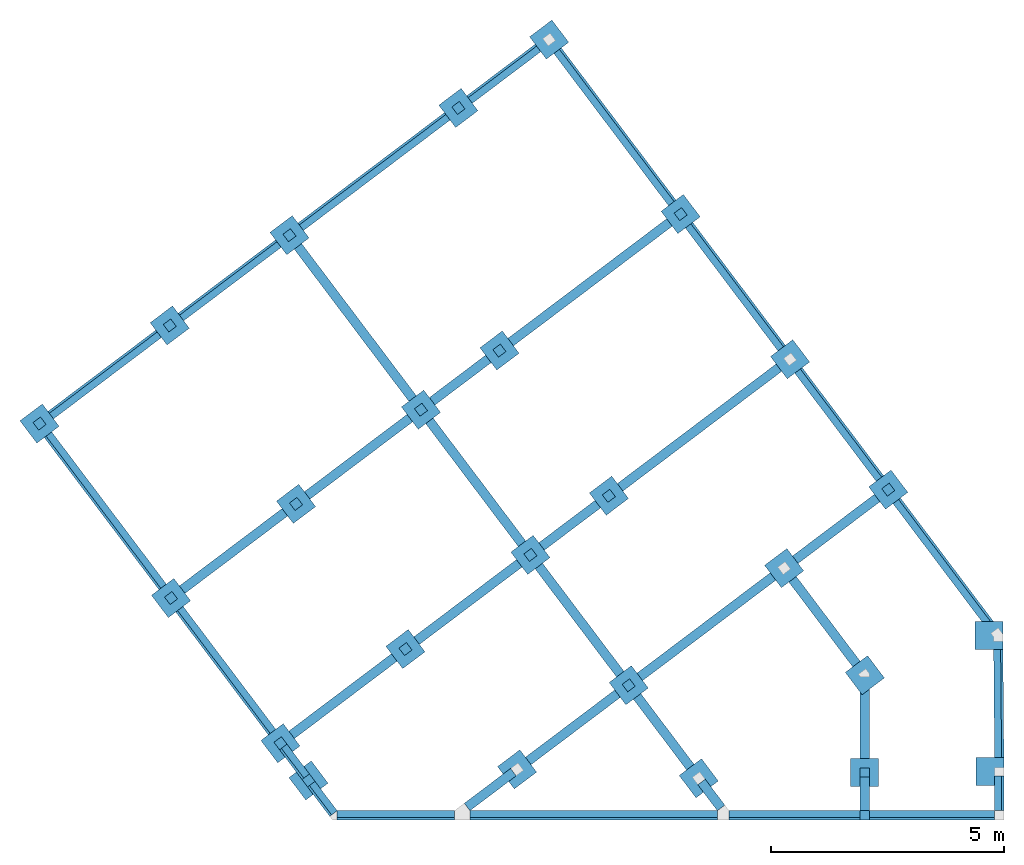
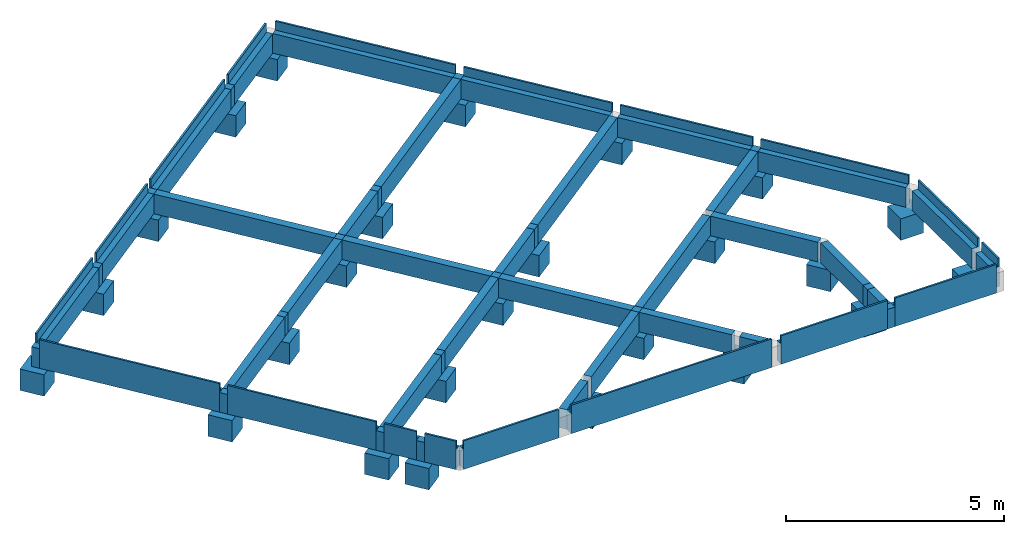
# One storey, part 1 of 2: 38 beams, 25 footings, 18 slabs.
"""IFC2X3 building model written with IfcOpenShell, lengths in millimetres."""

from ifc_helpers import new_model, entity, si_unit, converted_unit, money_unit, direction, frame, frame_2d, origin_with_axes, origin_2d_with_axis, place, context, subcontext, project, spatial, polyline, rectangle, outline, extrude, faceted_brep, source, transform, mapped, material, type_object, element, save


model = new_model("IFC2X3")

# Units and contexts
model_context = context("Model", 3, precision=1e-05, world=origin_with_axes(), true_north=direction((0.0, 1.0)))
body_context = subcontext(model_context, "Body", "Model", "MODEL_VIEW")
ifc_project = project(units=[si_unit("LENGTHUNIT", "METRE", prefix="MILLI"), si_unit("AREAUNIT", "SQUARE_METRE"), si_unit("VOLUMEUNIT", "CUBIC_METRE"), converted_unit("PLANEANGLEUNIT", "DEGREE", entity("IfcPlaneAngleMeasure", 0.0174532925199), si_unit("PLANEANGLEUNIT", "RADIAN"), dimensions=[0, 0, 0, 0, 0, 0, 0]), si_unit("SOLIDANGLEUNIT", "STERADIAN"), money_unit("EUR"), converted_unit("TIMEUNIT", "Year", entity("IfcTimeMeasure", 31556926.0), si_unit("TIMEUNIT", "SECOND"), dimensions=[0, 0, 0, 0, 0, 0, 0]), si_unit("MASSUNIT", "GRAM"), si_unit("THERMODYNAMICTEMPERATUREUNIT", "DEGREE_CELSIUS"), si_unit("LUMINOUSINTENSITYUNIT", "LUMEN")], contexts=[model_context])

# Site, building, storey
site_placement = place(None, origin_with_axes())
site = spatial("IfcSite", under=ifc_project, at=site_placement, Name="Default Site", CompositionType="ELEMENT")
building_placement = place(site_placement, origin_with_axes())
building = spatial("IfcBuilding", under=site, at=building_placement, Name="Default Building", CompositionType="ELEMENT")
storey_placement = place(building_placement, frame((0.0, 0.0, -1600.0), z_axis=(0.0, 0.0, 1.0), x_axis=(1.0, 0.0, 0.0)))
storey = spatial("IfcBuildingStorey", under=building, at=storey_placement, Name="FONDATIONS SUPERFICIELLES", CompositionType="ELEMENT", Elevation=-1600.0)

# Footings
ifc_material = material(Name="Struct. - B.A. coulé")
for number, where, z_axis, x_axis, name in (
    (1, (18141.2850024, 17068.0811227, 3950.0), (0.0, 0.0, 1.0), (0.798635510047, 0.601815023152, 0.0), "Plot-051"),
    (2, (32774.2515183, 17262.0565137, 3950.0), (0.0, 0.0, 1.0), (1.0, 0.0, 0.0), "Plot-060"),
    (3, (17733.7004828, 28775.1857972, 3950.0), (0.0, 0.0, 1.0), (0.798635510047, 0.601815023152, 0.0), "Plot-038"),
    (4, (12366.8698553, 24730.9888416, 3950.0), (0.0, 0.0, 1.0), (0.798635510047, 0.601815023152, 0.0), "Plot-036"),
    (5, (15189.9841289, 20984.589664, 3950.0), (0.0, 0.0, 1.0), (0.798635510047, 0.601815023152, 0.0), "Plot-041"),
    (6, (21359.5056984, 31507.4260023, 3950.0), (0.0, 0.0, 1.0), (0.798635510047, 0.601815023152, 0.0), "Plot-039"),
    (7, (25015.6622629, 19111.6961256, 3950.0), (0.0, 0.0, 1.0), (0.798635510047, 0.601815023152, 0.0), "Plot-053"),
    (8, (28480.7764669, 26111.5824499, 3950.0), (0.0, 0.0, 1.0), (0.798635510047, 0.601815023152, 0.0), "Plot-050"),
    (9, (30590.138123, 23312.3649872, 3950.0), (0.0, 0.0, 1.0), (0.798635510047, 0.601815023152, 0.0), "Plot-055"),
    (10, (26520.1998208, 17115.1073505, 3950.0), (0.0, 0.0, 1.0), (0.798635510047, 0.601815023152, 0.0), "Plot-056"),
    (11, (28353.9586949, 21627.2829224, 3950.0), (0.0, 0.0, 1.0), (0.798635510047, 0.601815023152, 0.0), "Plot-054"),
    (12, (30077.4743746, 17240.177369, 3950.0), (0.0, 0.0, 1.0), (1.0, 0.0, 0.0), "Plot-059"),
    (13, (22619.7557328, 17306.2510561, 3950.0), (0.0, 0.0, 1.0), (0.798635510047, 0.601815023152, 0.0), "Plot-052"),
    (14, (30086.5841457, 19328.0112901, 3950.0), (0.0, 0.0, 1.0), (0.798635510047, 0.601815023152, 0.0), "Plot-057"),
    (15, (32752.143799, 20180.1946014, 3950.0), (0.0, 0.0, 1.0), (1.0, 0.0, 0.0), "Plot-058"),
    (16, (20556.8147564, 25028.7866195, 3950.0), (0.0, 0.0, 1.0), (0.798635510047, 0.601815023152, 0.0), "Plot-043"),
    (17, (26131.2906165, 29229.4554811, 3950.0), (0.0, 0.0, 1.0), (0.798635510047, 0.601815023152, 0.0), "Plot-045"),
    (18, (15162.0941404, 26837.3414226, 3950.0), (0.0, 0.0, 1.0), (0.798635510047, 0.601815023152, 0.0), "Plot-037"),
    (19, (17873.3994426, 23006.6881418, 3950.0), (0.0, 0.0, 1.0), (0.798635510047, 0.601815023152, 0.0), "Plot-042"),
    (20, (22242.7343181, 26299.2181334, 3950.0), (0.0, 0.0, 1.0), (0.798635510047, 0.601815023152, 0.0), "Plot-044"),
    (21, (20222.885293, 19888.8151105, 3950.0), (0.0, 0.0, 1.0), (0.798635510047, 0.601815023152, 0.0), "Plot-047"),
    (22, (22906.3006068, 21910.9135883, 3950.0), (0.0, 0.0, 1.0), (0.798635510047, 0.601815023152, 0.0), "Plot-048"),
    (23, (24592.2201685, 23181.3451022, 3950.0), (0.0, 0.0, 1.0), (0.798635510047, 0.601815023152, 0.0), "Plot-049"),
    (24, (17539.4699792, 17866.7166327, 3950.0), (0.0, 0.0, 1.0), (0.798635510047, 0.601815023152, 0.0), "Plot-046"),
    (25, (23308.1763429, 32975.8546588, 3950.0), (0.0, 0.0, 1.0), (0.798635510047, 0.601815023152, 0.0), "Plot-040"),
):
    element("IfcFooting", number, at=place(storey_placement, frame(where, z_axis=z_axis, x_axis=x_axis)), inside=storey, material=ifc_material, Name=name, ObjectType="Massifs", PredefinedType="NOTDEFINED", context=body_context, shape_type="SweptSolid", body=[
        extrude(rectangle(XDim=600.0, YDim=600.0, at=origin_2d_with_axis()), origin_with_axes(), (0.0, 0.0, 1.0), 600.0),
    ])

# Beams
beam_type_1 = type_object("IfcBeamType", Name="Struct. - B.A. coulé 200 x 550", PredefinedType="NOTDEFINED")
beam_1_placement = place(storey_placement, frame((30086.5841457, 17140.177369, 5100.0), z_axis=(0.0, 0.0, 1.0), x_axis=(-1.0, -9.59262658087e-10, 0.0)))
element("IfcBeam", 26, at=beam_1_placement, inside=storey, type_object=beam_type_1, material=ifc_material, Name="LONGRINE_20x55-020", ObjectType="Struct. - B.A. coulé 200 x 550", context=body_context, shape_type="SweptSolid", body=[
    extrude(rectangle(XDim=550.0, YDim=200.00000298, at=frame_2d((-275.0, 0.0), x_axis=(1.0, 0.0))), frame((0.0, 0.0, 0.0), z_axis=(0.0, 1.0, 0.0), x_axis=(0.0, 0.0, 1.0)), (0.0, 0.0, 1.0), 722.118182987),
])
beam_2_placement = place(storey_placement, frame((30086.5841457, 17340.177369, 5100.0), z_axis=(0.0, 0.0, 1.0), x_axis=(1.0, 0.0, 0.0)))
element("IfcBeam", 27, at=beam_2_placement, inside=storey, type_object=beam_type_1, material=ifc_material, Name="LONGRINE_20x55-019", ObjectType="Struct. - B.A. coulé 200 x 550", context=body_context, shape_type="SweptSolid", body=[
    extrude(rectangle(XDim=550.0, YDim=200.00000298, at=frame_2d((-275.0, 0.0), x_axis=(1.0, 0.0))), frame((0.0, 0.0, 0.0), z_axis=(0.0, 1.0, 0.0), x_axis=(0.0, 0.0, 1.0)), (0.0, 0.0, 1.0), 1954.37438914),
])
beam_3_placement = place(storey_placement, frame((30026.4026434, 19407.8748411, 5100.0), z_axis=(0.0, 0.0, 1.0), x_axis=(0.798635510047, 0.601815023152, 0.0)))
element("IfcBeam", 28, at=beam_3_placement, inside=storey, type_object=beam_type_1, material=ifc_material, Name="LONGRINE_20x55-017", ObjectType="Struct. - B.A. coulé 200 x 550", context=body_context, shape_type="SweptSolid", body=[
    extrude(rectangle(XDim=550.0, YDim=200.00000298, at=frame_2d((-275.0, 0.0), x_axis=(1.0, 0.0))), frame((0.0, 0.0, 0.0), z_axis=(0.0, 1.0, 0.0), x_axis=(0.0, 0.0, 1.0)), (0.0, 0.0, 1.0), 2678.99999859),
])
beam_4_placement = place(storey_placement, frame((28433.8222459, 21687.4644247, 5100.0), z_axis=(0.0, 0.0, 1.0), x_axis=(0.601815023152, -0.798635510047, 0.0)))
element("IfcBeam", 29, at=beam_4_placement, inside=storey, type_object=beam_type_1, material=ifc_material, Name="LONGRINE_20x55-015", ObjectType="Struct. - B.A. coulé 200 x 550", context=body_context, shape_type="SweptSolid", body=[
    extrude(rectangle(XDim=550.0, YDim=200.00000298, at=frame_2d((-275.0, 0.0), x_axis=(1.0, 0.0))), frame((0.0, 0.0, 0.0), z_axis=(0.0, 1.0, 0.0), x_axis=(0.0, 0.0, 1.0)), (0.0, 0.0, 1.0), 2600.0),
])
beam_5_placement = place(storey_placement, frame((25095.5258139, 19171.8776279, 5100.0), z_axis=(0.0, 0.0, 1.0), x_axis=(0.601815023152, -0.798635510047, 0.0)))
element("IfcBeam", 30, at=beam_5_placement, inside=storey, type_object=beam_type_1, material=ifc_material, Name="LONGRINE_20x55-014", ObjectType="Struct. - B.A. coulé 200 x 550", context=body_context, shape_type="SweptSolid", body=[
    extrude(rectangle(XDim=550.0, YDim=200.00000298, at=frame_2d((-275.0, 0.0), x_axis=(1.0, 0.0))), frame((0.0, 0.0, 0.0), z_axis=(0.0, 1.0, 0.0), x_axis=(0.0, 0.0, 1.0)), (0.0, 0.0, 1.0), 3980.0),
])
beam_6_placement = place(storey_placement, frame((22539.8921818, 17246.0695538, 5100.0), z_axis=(0.0, 0.0, 1.0), x_axis=(-0.601815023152, 0.798635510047, 0.0)))
element("IfcBeam", 31, at=beam_6_placement, inside=storey, type_object=beam_type_1, material=ifc_material, Name="LONGRINE_20x55-012", ObjectType="Struct. - B.A. coulé 200 x 550", context=body_context, shape_type="SweptSolid", body=[
    extrude(rectangle(XDim=550.0, YDim=200.00000298, at=frame_2d((-275.0, 0.0), x_axis=(1.0, 0.0))), frame((0.0, 0.0, 0.0), z_axis=(0.0, 1.0, 0.0), x_axis=(0.0, 0.0, 1.0)), (0.0, 0.0, 1.0), 1243.1507805),
])
beam_7_placement = place(storey_placement, frame((24935.7987119, 19051.5146233, 5100.0), z_axis=(0.0, 0.0, 1.0), x_axis=(-0.601815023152, 0.798635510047, 0.0)))
element("IfcBeam", 32, at=beam_7_placement, inside=storey, type_object=beam_type_1, material=ifc_material, Name="LONGRINE_20x55-013", ObjectType="Struct. - B.A. coulé 200 x 550", context=body_context, shape_type="SweptSolid", body=[
    extrude(rectangle(XDim=550.0, YDim=200.00000298, at=frame_2d((-275.0, 0.0), x_axis=(1.0, 0.0))), frame((0.0, 0.0, 0.0), z_axis=(0.0, 1.0, 0.0), x_axis=(0.0, 0.0, 1.0)), (0.0, 0.0, 1.0), 2800.0),
])
beam_8_placement = place(storey_placement, frame((26580.3813231, 17035.2437995, 5100.0), z_axis=(0.0, 0.0, 1.0), x_axis=(-0.798635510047, -0.601815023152, 0.0)))
element("IfcBeam", 33, at=beam_8_placement, inside=storey, type_object=beam_type_1, material=ifc_material, Name="LONGRINE_20x55-018", ObjectType="Struct. - B.A. coulé 200 x 550", context=body_context, shape_type="SweptSolid", body=[
    extrude(rectangle(XDim=550.0, YDim=200.00000298, at=frame_2d((-275.0, 0.0), x_axis=(1.0, 0.0))), frame((0.0, 0.0, 0.0), z_axis=(0.0, 1.0, 0.0), x_axis=(0.0, 0.0, 1.0)), (0.0, 0.0, 1.0), 697.443454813),
])
beam_9_placement = place(storey_placement, frame((25075.8437652, 19031.8325746, 5100.0), z_axis=(0.0, 0.0, 1.0), x_axis=(-0.798635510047, -0.601815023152, 0.0)))
element("IfcBeam", 34, at=beam_9_placement, inside=storey, type_object=beam_type_1, material=ifc_material, Name="LONGRINE_20x55-016", ObjectType="Struct. - B.A. coulé 200 x 550", context=body_context, shape_type="SweptSolid", body=[
    extrude(rectangle(XDim=550.0, YDim=200.00000298, at=frame_2d((-275.0, 0.0), x_axis=(1.0, 0.0))), frame((0.0, 0.0, 0.0), z_axis=(0.0, 1.0, 0.0), x_axis=(0.0, 0.0, 1.0)), (0.0, 0.0, 1.0), 2300.0),
])
beam_10_placement = place(storey_placement, frame((22966.4821091, 21831.0500373, 5100.0), z_axis=(0.0, 0.0, 1.0), x_axis=(-0.798635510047, -0.601815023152, 0.0)))
element("IfcBeam", 35, at=beam_10_placement, inside=storey, type_object=beam_type_1, material=ifc_material, Name="LONGRINE-011", ObjectType="Struct. - B.A. coulé 200 x 550", context=body_context, shape_type="SweptSolid", body=[
    extrude(rectangle(XDim=550.0, YDim=200.00000298, at=frame_2d((-275.0, 0.0), x_axis=(1.0, 0.0))), frame((0.0, 0.0, 0.0), z_axis=(0.0, 1.0, 0.0), x_axis=(0.0, 0.0, 1.0)), (0.0, 0.0, 1.0), 3305.0),
])
beam_11_placement = place(storey_placement, frame((20616.9962587, 24948.9230685, 5100.0), z_axis=(0.0, 0.0, 1.0), x_axis=(-0.798635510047, -0.601815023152, 0.0)))
element("IfcBeam", 36, at=beam_11_placement, inside=storey, type_object=beam_type_1, material=ifc_material, Name="LONGRINE_20x55-006", ObjectType="Struct. - B.A. coulé 200 x 550", context=body_context, shape_type="SweptSolid", body=[
    extrude(rectangle(XDim=550.0, YDim=200.00000298, at=frame_2d((-275.0, 0.0), x_axis=(1.0, 0.0))), frame((0.0, 0.0, 0.0), z_axis=(0.0, 1.0, 0.0), x_axis=(0.0, 0.0, 1.0)), (0.0, 0.0, 1.0), 3704.0),
])
beam_12_placement = place(storey_placement, frame((24670.0393454, 23239.9860581, 5100.0), z_axis=(0.0, 0.0, 1.0), x_axis=(0.601815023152, -0.798635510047, 0.0)))
element("IfcBeam", 37, at=beam_12_placement, inside=storey, type_object=beam_type_1, material=ifc_material, Name="LONGRINE_20x55-010", ObjectType="Struct. - B.A. coulé 200 x 550", context=body_context, shape_type="SweptSolid", body=[
    extrude(rectangle(XDim=550.0, YDim=200.00000298, at=frame_2d((-275.0, 0.0), x_axis=(1.0, 0.0))), frame((0.0, 0.0, 0.0), z_axis=(0.0, 1.0, 0.0), x_axis=(0.0, 0.0, 1.0)), (0.0, 0.0, 1.0), 4671.55983368),
])
beam_13_placement = place(storey_placement, frame((22986.1641578, 21971.0950906, 5100.0), z_axis=(0.0, 0.0, 1.0), x_axis=(0.601815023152, -0.798635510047, 0.0)))
element("IfcBeam", 38, at=beam_13_placement, inside=storey, type_object=beam_type_1, material=ifc_material, Name="LONGRINE_20x55-009", ObjectType="Struct. - B.A. coulé 200 x 550", context=body_context, shape_type="SweptSolid", body=[
    extrude(rectangle(XDim=550.0, YDim=200.00000298, at=frame_2d((-275.0, 0.0), x_axis=(1.0, 0.0))), frame((0.0, 0.0, 0.0), z_axis=(0.0, 1.0, 0.0), x_axis=(0.0, 0.0, 1.0)), (0.0, 0.0, 1.0), 1908.44016632),
])
for number, where, z_axis, x_axis, name in (
    (39, (20302.748844, 19948.9966128, 5100.0), (0.0, 0.0, 1.0), (0.601815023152, -0.798635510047, 0.0), "LONGRINE_20x55-008"),
    (40, (17619.3335303, 17926.8981351, 5100.0), (0.0, 0.0, 1.0), (0.601815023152, -0.798635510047, 0.0), "LONGRINE_20x55-007"),
):
    element("IfcBeam", number, at=place(storey_placement, frame(where, z_axis=z_axis, x_axis=x_axis)), inside=storey, type_object=beam_type_1, material=ifc_material, Name=name, ObjectType="Struct. - B.A. coulé 200 x 550", context=body_context, shape_type="SweptSolid", body=[
        extrude(rectangle(XDim=550.0, YDim=200.00000298, at=frame_2d((-275.0, 0.0), x_axis=(1.0, 0.0))), frame((0.0, 0.0, 0.0), z_axis=(0.0, 1.0, 0.0), x_axis=(0.0, 0.0, 1.0)), (0.0, 0.0, 1.0), 3160.0),
    ])
beam_14_placement = place(storey_placement, frame((22320.553495, 26357.8590894, 5100.0), z_axis=(0.0, 0.0, 1.0), x_axis=(0.601815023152, -0.798635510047, 0.0)))
element("IfcBeam", 41, at=beam_14_placement, inside=storey, type_object=beam_type_1, material=ifc_material, Name="LONGRINE_20x55-005", ObjectType="Struct. - B.A. coulé 200 x 550", context=body_context, shape_type="SweptSolid", body=[
    extrude(rectangle(XDim=550.0, YDim=200.00000298, at=frame_2d((-275.0, 0.0), x_axis=(1.0, 0.0))), frame((0.0, 0.0, 0.0), z_axis=(0.0, 1.0, 0.0), x_axis=(0.0, 0.0, 1.0)), (0.0, 0.0, 1.0), 4671.55983368),
])
beam_15_placement = place(storey_placement, frame((20636.6783074, 25088.9681219, 5100.0), z_axis=(0.0, 0.0, 1.0), x_axis=(0.601815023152, -0.798635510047, 0.0)))
element("IfcBeam", 42, at=beam_15_placement, inside=storey, type_object=beam_type_1, material=ifc_material, Name="LONGRINE_20x55-004", ObjectType="Struct. - B.A. coulé 200 x 550", context=body_context, shape_type="SweptSolid", body=[
    extrude(rectangle(XDim=550.0, YDim=200.00000298, at=frame_2d((-275.0, 0.0), x_axis=(1.0, 0.0))), frame((0.0, 0.0, 0.0), z_axis=(0.0, 1.0, 0.0), x_axis=(0.0, 0.0, 1.0)), (0.0, 0.0, 1.0), 1911.0),
])
for number, where, z_axis, x_axis, name in (
    (43, (17953.2629936, 23066.8696441, 5100.0), (0.0, 0.0, 1.0), (0.601815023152, -0.798635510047, 0.0), "LONGRINE_20x55-003"),
    (44, (15269.8476799, 21044.7711663, 5100.0), (0.0, 0.0, 1.0), (0.601815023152, -0.798635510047, 0.0), "LONGRINE_20x55-002"),
):
    element("IfcBeam", number, at=place(storey_placement, frame(where, z_axis=z_axis, x_axis=x_axis)), inside=storey, type_object=beam_type_1, material=ifc_material, Name=name, ObjectType="Struct. - B.A. coulé 200 x 550", context=body_context, shape_type="SweptSolid", body=[
        extrude(rectangle(XDim=550.0, YDim=200.00000298, at=frame_2d((-275.0, 0.0), x_axis=(1.0, 0.0))), frame((0.0, 0.0, 0.0), z_axis=(0.0, 1.0, 0.0), x_axis=(0.0, 0.0, 1.0)), (0.0, 0.0, 1.0), 3160.0),
    ])
beam_16_placement = place(storey_placement, frame((17793.8819851, 28695.3222462, 5100.0), z_axis=(0.0, 0.0, 1.0), x_axis=(-0.798635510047, -0.601815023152, 0.0)))
element("IfcBeam", 45, at=beam_16_placement, inside=storey, type_object=beam_type_1, material=ifc_material, Name="LONGRINE_20x55-001", ObjectType="Struct. - B.A. coulé 200 x 550", context=body_context, shape_type="SweptSolid", body=[
    extrude(rectangle(XDim=550.0, YDim=200.00000298, at=frame_2d((-275.0, 0.0), x_axis=(1.0, 0.0))), frame((0.0, 0.0, 0.0), z_axis=(0.0, 1.0, 0.0), x_axis=(0.0, 0.0, 1.0)), (0.0, 0.0, 1.0), 4491.0),
])
beam_type_2 = type_object("IfcBeamType", Name="Longrine becquet 200 x 800", PredefinedType="NOTDEFINED")
beam_17_placement = place(storey_placement, frame((18201.4665047, 16988.2175717, 4550.0), z_axis=(0.0, 0.0, 1.0), x_axis=(-0.798635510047, -0.601815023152, 0.0)))
element("IfcBeam", 46, at=beam_17_placement, inside=storey, type_object=beam_type_2, material=ifc_material, Name="LONGRINE_B_20x80-015", ObjectType="Longrine becquet 200 x 800", context=body_context, shape_type="SweptSolid", body=[
    extrude(outline(polyline([(-100.0, 550.0), (-100.00000298, 0.0), (99.9999976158, 0.0), (100.0, 800.0), (50.0, 800.0), (50.0, 550.0), (-100.0, 550.0)])), frame((0.0, 789.271048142, 0.0), z_axis=(0.0, -1.0, 0.0), x_axis=(1.0, 0.0, 0.0)), (0.0, 0.0, 1.0), 789.271048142),
])
beam_18_placement = place(storey_placement, frame((18756.3252313, 16318.059186, 4550.0), z_axis=(0.0, 0.0, 1.0), x_axis=(0.0, -1.0, 0.0)))
element("IfcBeam", 47, at=beam_18_placement, inside=storey, type_object=beam_type_2, material=ifc_material, Name="LONGRINE_B_20x80-014", ObjectType="Longrine becquet 200 x 800", context=body_context, shape_type="SweptSolid", body=[
    extrude(outline(polyline([(-100.0, 550.0), (-100.00000298, 0.0), (99.9999976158, 0.0), (100.0, 800.0), (50.0, 800.0), (50.0, 550.0), (-100.0, 550.0)])), frame((0.0, 2518.59606551, 0.0), z_axis=(0.0, -1.0, 0.0), x_axis=(1.0, 0.0, 0.0)), (0.0, 0.0, 1.0), 2518.59606551),
])
beam_19_placement = place(storey_placement, frame((27170.6768541, 16318.059183, 4550.0), z_axis=(0.0, 0.0, 1.0), x_axis=(9.59260489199e-10, -1.0, 0.0)))
element("IfcBeam", 48, at=beam_19_placement, inside=storey, type_object=beam_type_2, material=ifc_material, Name="LONGRINE_B_20x80-012", ObjectType="Longrine becquet 200 x 800", context=body_context, shape_type="SweptSolid", body=[
    extrude(outline(polyline([(-100.0, 550.0), (-100.00000298, 0.0), (99.9999976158, 0.0), (100.0, 800.0), (50.0, 800.0), (50.0, 550.0), (-100.0, 550.0)])), frame((0.0, 2815.90729165, 0.0), z_axis=(0.0, -1.0, 0.0), x_axis=(1.0, 0.0, 0.0)), (0.0, 0.0, 1.0), 2815.90729165),
])
beam_20_placement = place(storey_placement, frame((21607.249325, 16318.059186, 4550.0), z_axis=(0.0, 0.0, 1.0), x_axis=(0.0, -1.0, 0.0)))
element("IfcBeam", 49, at=beam_20_placement, inside=storey, type_object=beam_type_2, material=ifc_material, Name="LONGRINE_B_20x80-013", ObjectType="Longrine becquet 200 x 800", context=body_context, shape_type="SweptSolid", body=[
    extrude(outline(polyline([(-100.0, 550.0), (-100.00000298, 0.0), (99.9999976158, 0.0), (100.0, 800.0), (50.0, 800.0), (50.0, 550.0), (-100.0, 550.0)])), frame((0.0, 5313.00039744, 0.0), z_axis=(0.0, -1.0, 0.0), x_axis=(1.0, 0.0, 0.0)), (0.0, 0.0, 1.0), 5313.00039744),
])
beam_21_placement = place(storey_placement, frame((17599.6514816, 17786.8530817, 4550.0), z_axis=(0.0, 0.0, 1.0), x_axis=(-0.798635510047, -0.601815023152, 0.0)))
element("IfcBeam", 50, at=beam_21_placement, inside=storey, type_object=beam_type_2, material=ifc_material, Name="LONGRINE_B_20x80-016", ObjectType="Longrine becquet 200 x 800", context=body_context, shape_type="SweptSolid", body=[
    extrude(outline(polyline([(-100.0, 550.0), (-100.00000298, 0.0), (99.9999976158, 0.0), (100.0, 800.0), (50.0, 800.0), (50.0, 550.0), (-100.0, 550.0)])), frame((0.0, 800.0, 0.0), z_axis=(0.0, -1.0, 0.0), x_axis=(1.0, 0.0, 0.0)), (0.0, 0.0, 1.0), 800.0),
])
beam_22_placement = place(storey_placement, frame((30186.584148, 16318.0591859, 4550.0), z_axis=(0.0, 0.0, 1.0), x_axis=(0.0, -1.0, 0.0)))
element("IfcBeam", 51, at=beam_22_placement, inside=storey, type_object=beam_type_2, material=ifc_material, Name="LONGRINE_B_20x80-011", ObjectType="Longrine becquet 200 x 800", context=body_context, shape_type="SweptSolid", body=[
    extrude(outline(polyline([(-100.0, 550.0), (-100.00000298, 0.0), (99.9999976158, 0.0), (100.0, 800.0), (50.0, 800.0), (50.0, 550.0), (-100.0, 550.0)])), frame((0.0, 2687.66737033, 0.0), z_axis=(0.0, -1.0, 0.0), x_axis=(1.0, 0.0, 0.0)), (0.0, 0.0, 1.0), 2687.66737033),
])
beam_23_placement = place(storey_placement, frame((32974.3702969, 17348.5296207, 4550.0), z_axis=(0.0, 0.0, 1.0), x_axis=(0.999961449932, 0.00878058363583, 0.0)))
element("IfcBeam", 52, at=beam_23_placement, inside=storey, type_object=beam_type_2, material=ifc_material, Name="LONGRINE_B_20x80-009", ObjectType="Longrine becquet 200 x 800", context=body_context, shape_type="SweptSolid", body=[
    extrude(outline(polyline([(-100.0, 550.0), (-100.00000298, 0.0), (99.9999976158, 0.0), (100.0, 800.0), (50.0, 800.0), (50.0, 550.0), (-100.0, 550.0)])), frame((0.0, 2700.0, 0.0), z_axis=(0.0, -1.0, 0.0), x_axis=(1.0, 0.0, 0.0)), (0.0, 0.0, 1.0), 2700.0),
])
beam_24_placement = place(storey_placement, frame((32974.2515183, 16418.059186, 4550.0), z_axis=(0.0, 0.0, 1.0), x_axis=(1.0, 0.0, 0.0)))
element("IfcBeam", 53, at=beam_24_placement, inside=storey, type_object=beam_type_2, material=ifc_material, Name="LONGRINE_B_20x80-010", ObjectType="Longrine becquet 200 x 800", context=body_context, shape_type="SweptSolid", body=[
    extrude(outline(polyline([(-100.0, 550.0), (-100.00000298, 0.0), (99.9999976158, 0.0), (100.0, 800.0), (50.0, 800.0), (50.0, 550.0), (-100.0, 550.0)])), frame((0.0, 743.997327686, 0.0), z_axis=(0.0, -1.0, 0.0), x_axis=(1.0, 0.0, 0.0)), (0.0, 0.0, 1.0), 743.997327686),
])
beam_25_placement = place(storey_placement, frame((32869.4978443, 20287.5524775, 4550.0), z_axis=(0.0, 0.0, 1.0), x_axis=(0.798635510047, 0.601815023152, 0.0)))
element("IfcBeam", 54, at=beam_25_placement, inside=storey, type_object=beam_type_2, material=ifc_material, Name="LONGRINE_B_20x80-008", ObjectType="Longrine becquet 200 x 800", context=body_context, shape_type="SweptSolid", body=[
    extrude(outline(polyline([(-100.0, 550.0), (-100.00000298, 0.0), (99.9999976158, 0.0), (100.0, 800.0), (50.0, 800.0), (50.0, 550.0), (-100.0, 550.0)])), frame((0.0, 3687.47560342, 0.0), z_axis=(0.0, -1.0, 0.0), x_axis=(1.0, 0.0, 0.0)), (0.0, 0.0, 1.0), 3687.47560342),
])
beam_26_placement = place(storey_placement, frame((30529.9566207, 23392.2285382, 4550.0), z_axis=(0.0, 0.0, 1.0), x_axis=(0.798635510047, 0.601815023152, 0.0)))
element("IfcBeam", 55, at=beam_26_placement, inside=storey, type_object=beam_type_2, material=ifc_material, Name="LONGRINE_B_20x80-007", ObjectType="Longrine becquet 200 x 800", context=body_context, shape_type="SweptSolid", body=[
    extrude(outline(polyline([(-100.0, 550.0), (-100.00000298, 0.0), (99.9999976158, 0.0), (100.0, 800.0), (50.0, 800.0), (50.0, 550.0), (-100.0, 550.0)])), frame((0.0, 3305.0, 0.0), z_axis=(0.0, -1.0, 0.0), x_axis=(1.0, 0.0, 0.0)), (0.0, 0.0, 1.0), 3305.0),
])
beam_27_placement = place(storey_placement, frame((28420.5949646, 26191.4460009, 4550.0), z_axis=(0.0, 0.0, 1.0), x_axis=(0.798635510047, 0.601815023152, 0.0)))
element("IfcBeam", 56, at=beam_27_placement, inside=storey, type_object=beam_type_2, material=ifc_material, Name="LONGRINE_B_20x80-006", ObjectType="Longrine becquet 200 x 800", context=body_context, shape_type="SweptSolid", body=[
    extrude(outline(polyline([(-100.0, 550.0), (-100.00000298, 0.0), (99.9999976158, 0.0), (100.0, 800.0), (50.0, 800.0), (50.0, 550.0), (-100.0, 550.0)])), frame((0.0, 3704.0, 0.0), z_axis=(0.0, -1.0, 0.0), x_axis=(1.0, 0.0, 0.0)), (0.0, 0.0, 1.0), 3704.0),
])
beam_28_placement = place(storey_placement, frame((26071.1091142, 29309.3190321, 4550.0), z_axis=(0.0, 0.0, 1.0), x_axis=(0.798635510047, 0.601815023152, 0.0)))
element("IfcBeam", 57, at=beam_28_placement, inside=storey, type_object=beam_type_2, material=ifc_material, Name="LONGRINE_B_20x80-005", ObjectType="Longrine becquet 200 x 800", context=body_context, shape_type="SweptSolid", body=[
    extrude(outline(polyline([(-100.0, 550.0), (-100.00000298, 0.0), (99.9999976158, 0.0), (100.0, 800.0), (50.0, 800.0), (50.0, 550.0), (-100.0, 550.0)])), frame((0.0, 4491.0, 0.0), z_axis=(0.0, -1.0, 0.0), x_axis=(1.0, 0.0, 0.0)), (0.0, 0.0, 1.0), 4491.0),
])
beam_29_placement = place(storey_placement, frame((23228.3127919, 32915.6731565, 4550.0), z_axis=(0.0, 0.0, 1.0), x_axis=(-0.601815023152, 0.798635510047, 0.0)))
element("IfcBeam", 58, at=beam_29_placement, inside=storey, type_object=beam_type_2, material=ifc_material, Name="LONGRINE_B_20x80-004", ObjectType="Longrine becquet 200 x 800", context=body_context, shape_type="SweptSolid", body=[
    extrude(outline(polyline([(-100.0, 550.0), (-100.00000298, 0.0), (99.9999976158, 0.0), (100.0, 800.0), (50.0, 800.0), (50.0, 550.0), (-100.0, 550.0)])), frame((0.0, 2240.0, 0.0), z_axis=(0.0, -1.0, 0.0), x_axis=(1.0, 0.0, 0.0)), (0.0, 0.0, 1.0), 2240.0),
])
beam_30_placement = place(storey_placement, frame((21279.6421474, 31447.2445, 4550.0), z_axis=(0.0, 0.0, 1.0), x_axis=(-0.601815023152, 0.798635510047, 0.0)))
element("IfcBeam", 59, at=beam_30_placement, inside=storey, type_object=beam_type_2, material=ifc_material, Name="LONGRINE_B_20x80-003", ObjectType="Longrine becquet 200 x 800", context=body_context, shape_type="SweptSolid", body=[
    extrude(outline(polyline([(-100.0, 550.0), (-100.00000298, 0.0), (99.9999976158, 0.0), (100.0, 800.0), (50.0, 800.0), (50.0, 550.0), (-100.0, 550.0)])), frame((0.0, 4340.0, 0.0), z_axis=(0.0, -1.0, 0.0), x_axis=(1.0, 0.0, 0.0)), (0.0, 0.0, 1.0), 4340.0),
])
beam_31_placement = place(storey_placement, frame((17653.8369318, 28715.0042949, 4550.0), z_axis=(0.0, 0.0, 1.0), x_axis=(-0.601815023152, 0.798635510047, 0.0)))
element("IfcBeam", 60, at=beam_31_placement, inside=storey, type_object=beam_type_2, material=ifc_material, Name="LONGRINE_B_20x80-002", ObjectType="Longrine becquet 200 x 800", context=body_context, shape_type="SweptSolid", body=[
    extrude(outline(polyline([(-100.0, 550.0), (-100.00000298, 0.0), (99.9999976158, 0.0), (100.0, 800.0), (50.0, 800.0), (50.0, 550.0), (-100.0, 550.0)])), frame((0.0, 3020.0, 0.0), z_axis=(0.0, -1.0, 0.0), x_axis=(1.0, 0.0, 0.0)), (0.0, 0.0, 1.0), 3020.0),
])
beam_32_placement = place(storey_placement, frame((15250.1656312, 20904.726113, 4550.0), z_axis=(0.0, 0.0, 1.0), x_axis=(-0.798635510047, -0.601815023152, 0.0)))
element("IfcBeam", 61, at=beam_32_placement, inside=storey, type_object=beam_type_2, material=ifc_material, Name="LONGRINE_B_20x80-017", ObjectType="Longrine becquet 200 x 800", context=body_context, shape_type="SweptSolid", body=[
    extrude(outline(polyline([(-100.0, 550.0), (-100.00000298, 0.0), (99.9999976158, 0.0), (100.0, 800.0), (50.0, 800.0), (50.0, 550.0), (-100.0, 550.0)])), frame((0.0, 3704.0, 0.0), z_axis=(0.0, -1.0, 0.0), x_axis=(1.0, 0.0, 0.0)), (0.0, 0.0, 1.0), 3704.0),
])
beam_33_placement = place(storey_placement, frame((12427.0513576, 24651.1252906, 4550.0), z_axis=(0.0, 0.0, 1.0), x_axis=(-0.798635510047, -0.601815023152, 0.0)))
element("IfcBeam", 62, at=beam_33_placement, inside=storey, type_object=beam_type_2, material=ifc_material, Name="LONGRINE_B_20x80-018", ObjectType="Longrine becquet 200 x 800", context=body_context, shape_type="SweptSolid", body=[
    extrude(outline(polyline([(-100.0, 550.0), (-100.00000298, 0.0), (99.9999976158, 0.0), (100.0, 800.0), (50.0, 800.0), (50.0, 550.0), (-100.0, 550.0)])), frame((0.0, 4491.0, 0.0), z_axis=(0.0, -1.0, 0.0), x_axis=(1.0, 0.0, 0.0)), (0.0, 0.0, 1.0), 4491.0),
])
beam_34_placement = place(storey_placement, frame((15082.2305894, 26777.1599203, 4550.0), z_axis=(0.0, 0.0, 1.0), x_axis=(-0.601815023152, 0.798635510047, 0.0)))
element("IfcBeam", 63, at=beam_34_placement, inside=storey, type_object=beam_type_2, material=ifc_material, Name="LONGRINE_B_20x80-001", ObjectType="Longrine becquet 200 x 800", context=body_context, shape_type="SweptSolid", body=[
    extrude(outline(polyline([(-100.0, 550.0), (-100.00000298, 0.0), (99.9999976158, 0.0), (100.0, 800.0), (50.0, 800.0), (50.0, 550.0), (-100.0, 550.0)])), frame((0.0, 3300.0, 0.0), z_axis=(0.0, -1.0, 0.0), x_axis=(1.0, 0.0, 0.0)), (0.0, 0.0, 1.0), 3300.0),
])

# Slabs
slab_type = type_object("IfcSlabType", Name="Struct. - B.A. coulé", PredefinedType="NOTDEFINED")
shared_shape_1 = source(origin_with_axes(), body_context, "Body", "Brep", [
    faceted_brep([(-419.028583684, -7953.94281863, -1.08372155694e-06), (-298.665579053, -8113.66992064, 0.0), (-298.66558114, -8113.66992035, 549.999999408), (-419.02858577, -7953.94281834, 549.999999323), (-259.301481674, -7833.579814, 0.0), (-138.93847525, -7993.30691839, 0.0), (-138.938477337, -7993.3069181, 549.999999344), (-259.301483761, -7833.57981371, 549.999999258)], [[[0, 1, 2, 3]], [[1, 0, 4, 5]], [[6, 2, 1, 5]], [[3, 2, 6, 7]], [[0, 3, 7, 4]], [[4, 7, 6, 5]]]),
])
for number, where, z_axis, x_axis, name in (
    (64, (25294.6457935, 27085.3209946, 4550.0), (0.0, 0.0, 1.0), (1.0, 0.0, 0.0), "Clav-020"),
    (65, (20501.8688233, 27862.4399775, 4550.0), (0.0, 0.0, 1.0), (1.0, 0.0, 0.0), "Clav-012"),
    (66, (23185.2841373, 29884.5384574, 4550.0), (0.0, 0.0, 1.0), (1.0, 0.0, 0.0), "Clav-013"),
    (67, (18420.2685336, 25041.7059884, 4550.00000108), (0.0, 0.0, 1.0), (1.0, 0.0, 0.0), "Clav-016"),
    (68, (17818.4535104, 25840.3414985, 4550.00000108), (0.0, 0.0, 1.0), (1.0, 0.0, 0.0), "Clav-011"),
    (69, (15468.96766, 28958.2145297, 4550.00000108), (0.0, 0.0, 1.0), (1.0, 0.0, 0.0), "Clav-006"),
):
    element("IfcSlab", number, at=place(storey_placement, frame(where, z_axis=z_axis, x_axis=x_axis)), inside=storey, type_object=slab_type, material=ifc_material, Name=name, PredefinedType="FLOOR", context=body_context, shape_type="MappedRepresentation", body=[
        mapped(shared_shape_1, transform((0.0, 0.0, 0.0))),
    ])
shared_shape_2 = source(origin_with_axes(), body_context, "Body", "Brep", [
    faceted_brep([(-419.028583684, -7953.94281863, -1.08372155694e-06), (-298.665579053, -8113.66992064, 0.0), (-298.66558114, -8113.66992035, 549.999999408), (-419.02858577, -7953.94281834, 549.999999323), (-259.301481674, -7833.579814, 0.0), (-138.93847525, -7993.30691839, 0.0), (-138.938477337, -7993.3069181, 549.999999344), (-259.301483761, -7833.57981371, 549.999999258)], [[[0, 1, 2, 3]], [[1, 0, 4, 5]], [[6, 2, 1, 5]], [[3, 2, 6, 7]], [[0, 3, 7, 4]], [[4, 7, 6, 5]]]),
])
for number, where, z_axis, x_axis, name in (
    (70, (24869.1593247, 31153.4294228, 4550.0), (0.0, 0.0, 1.0), (1.0, 0.0, 0.0), "Clav-014"),
    (71, (22519.6734743, 34271.302454, 4550.0), (0.0, 0.0, 1.0), (1.0, 0.0, 0.0), "Clav-009"),
    (72, (30869.1216557, 31285.9898559, 4550.0), (0.0, 0.0, 1.0), (1.0, 0.0, 0.0), "Clav-022"),
    (73, (21638.4892296, 39481.050868, 4550.00000108), (0.0, 0.0, 1.0), (1.0, 0.0, 0.0), "Clav-004"),
    (74, (18012.6840154, 36748.810661, 4550.00000108), (0.0, 0.0, 1.0), (1.0, 0.0, 0.0), "Clav-003"),
    (75, (15441.0776716, 34810.9662884, 4550.00000108), (0.0, 0.0, 1.0), (1.0, 0.0, 0.0), "Clav-002"),
    (76, (26410.2741453, 37203.0803451, 4550.00000108), (0.0, 0.0, 1.0), (1.0, 0.0, 0.0), "Clav-010"),
    (77, (20835.7982864, 33002.4114844, 4550.00000108), (0.0, 0.0, 1.0), (1.0, 0.0, 0.0), "Clav-008"),
    (78, (18152.3829729, 30980.3130087, 4550.00000108), (0.0, 0.0, 1.0), (1.0, 0.0, 0.0), "Clav-007"),
    (79, (12645.8533864, 32704.6137073, 4550.0), (0.0, 0.0, 1.0), (1.0, 0.0, 0.0), "Clav-001"),
):
    element("IfcSlab", number, at=place(storey_placement, frame(where, z_axis=z_axis, x_axis=x_axis)), inside=storey, type_object=slab_type, material=ifc_material, Name=name, PredefinedType="FLOOR", context=body_context, shape_type="MappedRepresentation", body=[
        mapped(shared_shape_2, transform((0.0, 0.0, 0.0))),
    ])
shared_shape_3 = source(origin_with_axes(), body_context, "Body", "Brep", [
    faceted_brep([(-459.301484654, -7833.57981419, 550.0), (-459.301484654, -7833.57981419, 0.0), (-259.301481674, -7833.579814, 0.0), (-259.301481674, -7833.579814, 550.0), (-459.301484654, -7633.5798141, 550.0), (-459.301484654, -7633.5798141, 0.0), (-259.301481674, -7633.5798141, 0.0), (-259.301481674, -7633.5798141, 550.0)], [[[0, 1, 2, 3]], [[1, 0, 4, 5]], [[1, 5, 6, 2]], [[3, 2, 6, 7]], [[4, 0, 3, 7]], [[6, 5, 4, 7]]]),
])
for number, where, z_axis, x_axis, name in (
    (80, (30445.8856297, 24973.7571815, 4550.0), (0.0, 0.0, 1.0), (1.0, 0.0, 0.0), "Clav-027"),
    (81, (30445.8856304, 24051.6389984, 4550.0), (0.0, 0.0, 1.0), (1.0, 0.0, 0.0), "Clav-029"),
):
    element("IfcSlab", number, at=place(storey_placement, frame(where, z_axis=z_axis, x_axis=x_axis)), inside=storey, type_object=slab_type, material=ifc_material, Name=name, PredefinedType="FLOOR", context=body_context, shape_type="MappedRepresentation", body=[
        mapped(shared_shape_3, transform((0.0, 0.0, 0.0))),
    ])

save(model, "model.ifc")
